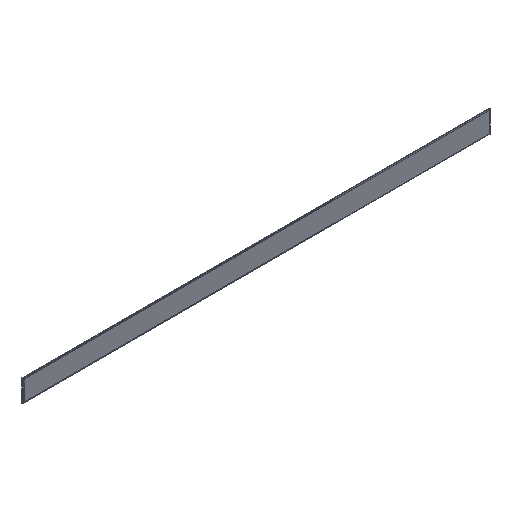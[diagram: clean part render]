
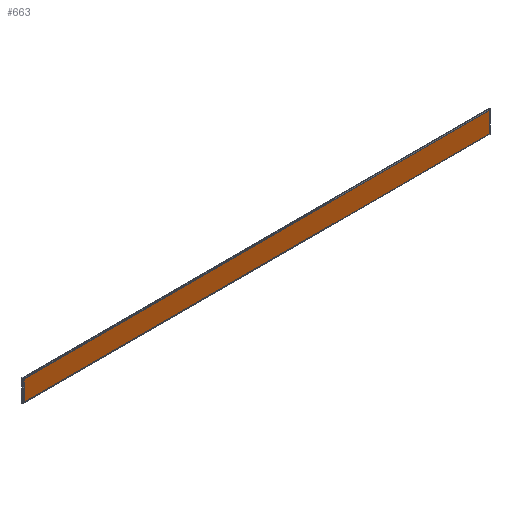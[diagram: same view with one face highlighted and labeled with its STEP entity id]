
A CAD part, isometric view. The second image highlights one B-rep face of the part: STEP entity #663.
In plain terms, the highlighted planar face has unit normal (0, -1, 0).
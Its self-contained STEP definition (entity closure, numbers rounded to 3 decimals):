
#432 = CARTESIAN_POINT ( 'NONE',  ( 0., -0.064, 0. ) ) ;
#663 = ADVANCED_FACE ( 'NONE', ( #7493 ), #6875, .T. ) ;
#769 = DIRECTION ( 'NONE',  ( 0., 0., -1. ) ) ;
#803 = ORIENTED_EDGE ( 'NONE', *, *, #5067, .T. ) ;
#1016 = EDGE_LOOP ( 'NONE', ( #2346, #2794, #5266, #803 ) ) ;
#1482 = VERTEX_POINT ( 'NONE', #1811 ) ;
#1600 = DIRECTION ( 'NONE',  ( -1., 0., 0. ) ) ;
#1644 = EDGE_CURVE ( 'NONE', #5680, #5196, #7139, .T. ) ;
#1811 = CARTESIAN_POINT ( 'NONE',  ( 52.3, -0.064, -2.3 ) ) ;
#1847 = CARTESIAN_POINT ( 'NONE',  ( -52.3, -0.064, 2.3 ) ) ;
#1917 = VECTOR ( 'NONE', #769, 1000. ) ;
#2058 = LINE ( 'NONE', #2522, #3107 ) ;
#2318 = AXIS2_PLACEMENT_3D ( 'NONE', #432, #3993, #6298 ) ;
#2346 = ORIENTED_EDGE ( 'NONE', *, *, #1644, .T. ) ;
#2513 = LINE ( 'NONE', #3622, #6315 ) ;
#2522 = CARTESIAN_POINT ( 'NONE',  ( 52.3, -0.064, -2.3 ) ) ;
#2794 = ORIENTED_EDGE ( 'NONE', *, *, #5964, .T. ) ;
#2797 = CARTESIAN_POINT ( 'NONE',  ( 52.3, -0.064, 2.3 ) ) ;
#3107 = VECTOR ( 'NONE', #3137, 1000. ) ;
#3137 = DIRECTION ( 'NONE',  ( 0., 0., 1. ) ) ;
#3622 = CARTESIAN_POINT ( 'NONE',  ( -52.3, -0.064, -2.3 ) ) ;
#3815 = CARTESIAN_POINT ( 'NONE',  ( -52.3, -0.064, 2.3 ) ) ;
#3901 = LINE ( 'NONE', #2797, #4700 ) ;
#3993 = DIRECTION ( 'NONE',  ( 0., -1., 0. ) ) ;
#4700 = VECTOR ( 'NONE', #1600, 1000. ) ;
#5067 = EDGE_CURVE ( 'NONE', #6031, #5680, #3901, .T. ) ;
#5196 = VERTEX_POINT ( 'NONE', #5625 ) ;
#5266 = ORIENTED_EDGE ( 'NONE', *, *, #5605, .T. ) ;
#5605 = EDGE_CURVE ( 'NONE', #1482, #6031, #2058, .T. ) ;
#5625 = CARTESIAN_POINT ( 'NONE',  ( -52.3, -0.064, -2.3 ) ) ;
#5680 = VERTEX_POINT ( 'NONE', #3815 ) ;
#5964 = EDGE_CURVE ( 'NONE', #5196, #1482, #2513, .T. ) ;
#6001 = DIRECTION ( 'NONE',  ( 1., 0., 0. ) ) ;
#6031 = VERTEX_POINT ( 'NONE', #6035 ) ;
#6035 = CARTESIAN_POINT ( 'NONE',  ( 52.3, -0.064, 2.3 ) ) ;
#6298 = DIRECTION ( 'NONE',  ( 0., 0., -1. ) ) ;
#6315 = VECTOR ( 'NONE', #6001, 1000. ) ;
#6875 = PLANE ( 'NONE',  #2318 ) ;
#7139 = LINE ( 'NONE', #1847, #1917 ) ;
#7493 = FACE_OUTER_BOUND ( 'NONE', #1016, .T. ) ;
